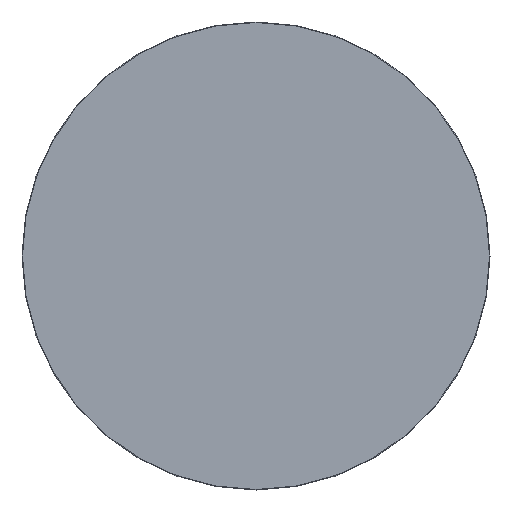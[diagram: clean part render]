
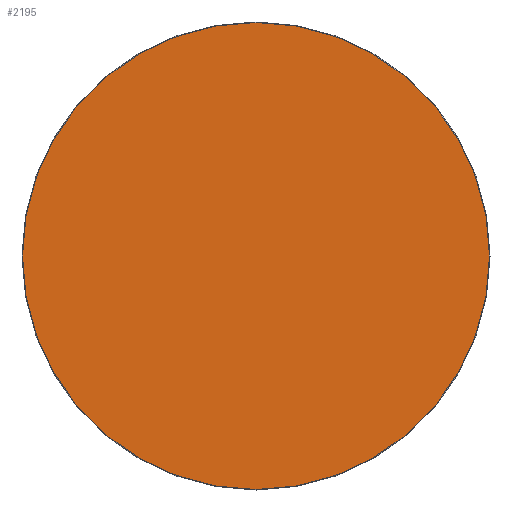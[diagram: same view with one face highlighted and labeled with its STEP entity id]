
A CAD part, front view. The second image highlights one B-rep face of the part: STEP entity #2195.
In plain terms, the highlighted planar face has unit normal (0, -1, 0).
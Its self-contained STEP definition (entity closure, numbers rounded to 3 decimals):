
#470=PLANE('',#2348);
#534=ORIENTED_EDGE('',*,*,#1171,.T.);
#1171=EDGE_CURVE('',#1490,#1490,#1705,.F.);
#1490=VERTEX_POINT('',#3231);
#1705=CIRCLE('',#2349,499.);
#1809=EDGE_LOOP('',(#534));
#1977=FACE_BOUND('',#1809,.T.);
#2195=ADVANCED_FACE('',(#1977),#470,.F.);
#2348=AXIS2_PLACEMENT_3D('',#3229,#2574,#2575);
#2349=AXIS2_PLACEMENT_3D('',#3230,#2576,#2577);
#2574=DIRECTION('',(0.,1.,0.));
#2575=DIRECTION('',(0.,0.,1.));
#2576=DIRECTION('',(0.,1.,0.));
#2577=DIRECTION('',(0.,0.,1.));
#3229=CARTESIAN_POINT('',(206.325,0.,97.207));
#3230=CARTESIAN_POINT('',(206.325,0.,97.207));
#3231=CARTESIAN_POINT('',(206.325,0.,596.207));
